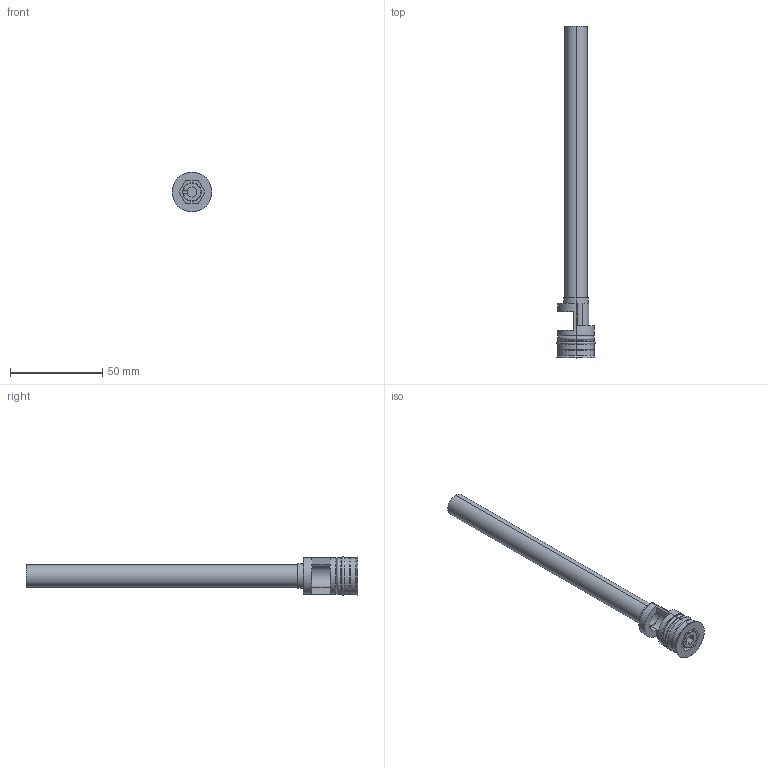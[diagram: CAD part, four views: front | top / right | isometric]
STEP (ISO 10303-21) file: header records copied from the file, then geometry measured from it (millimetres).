
FILE_DESCRIPTION (( 'STEP AP203' ), '1' );
FILE_NAME ('RF-20Fx150.STEP', '2015-11-24T13:26:29', ( 'Balzi' ), ( '' ), 'SwSTEP 2.0', 'SolidWorks 2015', '' );
FILE_SCHEMA (( 'CONFIG_CONTROL_DESIGN' ));
Length unit declared in the file: millimetre
Products named in the file (1): RF-20Fx150
Bounding box: 21.5 x 179.5 x 21.5 mm (x, y, z)
Volume: 8219.4 mm3; surface area: 14377.6 mm2
Topology: 1 solids, 1 shells, 74 faces, 170 edges, 106 vertices
Faces by surface type: cylinder 26, plane 26, cone 14, torus 8
Entity records: 2194 total; most frequent: DIRECTION 401, CARTESIAN_POINT 370, ORIENTED_EDGE 340, EDGE_CURVE 170, AXIS2_PLACEMENT_3D 161, VERTEX_POINT 106, CIRCLE 86, EDGE_LOOP 84
